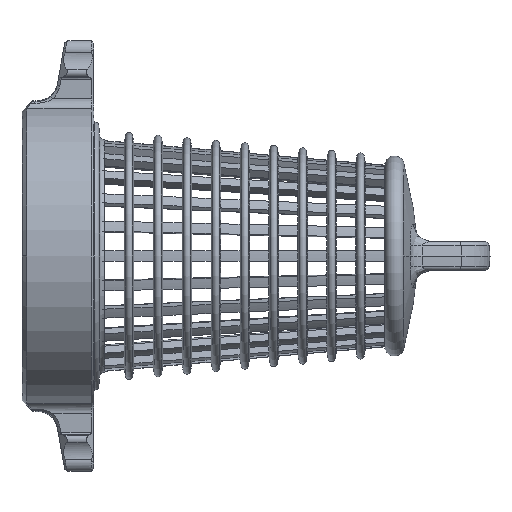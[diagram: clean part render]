
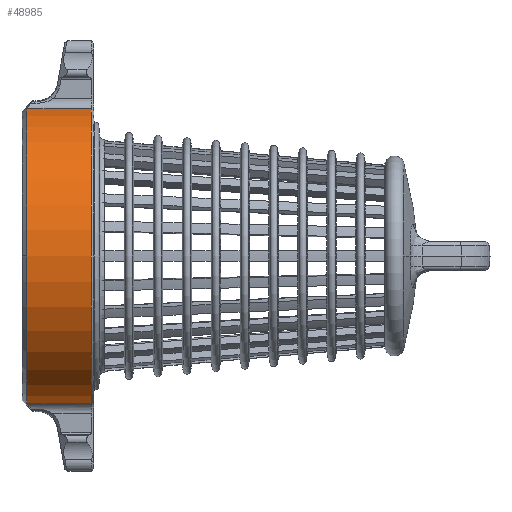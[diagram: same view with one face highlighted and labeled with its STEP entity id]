
A CAD part, front view. The second image highlights one B-rep face of the part: STEP entity #48985.
In plain terms, the highlighted cylindrical face has radius 98.425 mm (diameter 196.85 mm), a partial arc.
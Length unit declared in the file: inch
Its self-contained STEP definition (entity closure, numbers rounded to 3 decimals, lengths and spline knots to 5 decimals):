
#4801 = ORIENTED_EDGE ( 'NONE', *, *, #34245, .F. ) ;
#6235 = CARTESIAN_POINT ( 'NONE',  ( -1.098, 0., 0. ) ) ;
#7372 = ORIENTED_EDGE ( 'NONE', *, *, #14379, .T. ) ;
#8384 = EDGE_CURVE ( 'NONE', #8896, #16818, #25619, .T. ) ;
#8896 = VERTEX_POINT ( 'NONE', #45655 ) ;
#9627 = CARTESIAN_POINT ( 'NONE',  ( -1.223, -0.68878, 3.81329 ) ) ;
#9958 = DIRECTION ( 'NONE',  ( 1., 0., 0. ) ) ;
#9975 = DIRECTION ( 'NONE',  ( 1., 0., 0. ) ) ;
#11533 = CARTESIAN_POINT ( 'NONE',  ( -1.098, -3.875, 0. ) ) ;
#12869 = DIRECTION ( 'NONE',  ( 1., 0., 0. ) ) ;
#13179 = CARTESIAN_POINT ( 'NONE',  ( 0.5775, -0.68878, 3.81329 ) ) ;
#14379 = EDGE_CURVE ( 'NONE', #16567, #8896, #33009, .T. ) ;
#16567 = VERTEX_POINT ( 'NONE', #48987 ) ;
#16818 = VERTEX_POINT ( 'NONE', #13179 ) ;
#18920 = AXIS2_PLACEMENT_3D ( 'NONE', #40291, #28614, #40624 ) ;
#20042 = AXIS2_PLACEMENT_3D ( 'NONE', #6235, #35093, #50800 ) ;
#21796 = CARTESIAN_POINT ( 'NONE',  ( -1.223, -0.68878, -3.81329 ) ) ;
#21798 = LINE ( 'NONE', #9627, #49012 ) ;
#23590 = ORIENTED_EDGE ( 'NONE', *, *, #29823, .F. ) ;
#25619 = CIRCLE ( 'NONE', #18920, 3.875 ) ;
#26895 = ORIENTED_EDGE ( 'NONE', *, *, #8384, .T. ) ;
#28614 = DIRECTION ( 'NONE',  ( -1., 0., 0. ) ) ;
#29823 = EDGE_CURVE ( 'NONE', #16567, #32389, #49565, .T. ) ;
#30363 = AXIS2_PLACEMENT_3D ( 'NONE', #46512, #42455, #33824 ) ;
#30513 = FACE_OUTER_BOUND ( 'NONE', #51002, .T. ) ;
#32389 = VERTEX_POINT ( 'NONE', #11533 ) ;
#33009 = LINE ( 'NONE', #21796, #40572 ) ;
#33824 = DIRECTION ( 'NONE',  ( 0., 1., 0. ) ) ;
#34165 = CIRCLE ( 'NONE', #20042, 3.875 ) ;
#34245 = EDGE_CURVE ( 'NONE', #49135, #16818, #21798, .T. ) ;
#34930 = CYLINDRICAL_SURFACE ( 'NONE', #42341, 3.875 ) ;
#35093 = DIRECTION ( 'NONE',  ( -1., 0., 0. ) ) ;
#40291 = CARTESIAN_POINT ( 'NONE',  ( 0.5775, 0., 0. ) ) ;
#40572 = VECTOR ( 'NONE', #9958, 39.37008 ) ;
#40624 = DIRECTION ( 'NONE',  ( 0., 0., -1. ) ) ;
#41347 = DIRECTION ( 'NONE',  ( 0., 0., -1. ) ) ;
#42341 = AXIS2_PLACEMENT_3D ( 'NONE', #45410, #12869, #41347 ) ;
#42455 = DIRECTION ( 'NONE',  ( -1., 0., 0. ) ) ;
#42574 = CARTESIAN_POINT ( 'NONE',  ( -1.098, -0.68878, 3.81329 ) ) ;
#45410 = CARTESIAN_POINT ( 'NONE',  ( -1.223, 0., 0. ) ) ;
#45655 = CARTESIAN_POINT ( 'NONE',  ( 0.5775, -0.68878, -3.81329 ) ) ;
#46512 = CARTESIAN_POINT ( 'NONE',  ( -1.098, 0., 0. ) ) ;
#48884 = ORIENTED_EDGE ( 'NONE', *, *, #51638, .F. ) ;
#48985 = ADVANCED_FACE ( 'NONE', ( #30513 ), #34930, .T. ) ;
#48987 = CARTESIAN_POINT ( 'NONE',  ( -1.098, -0.68878, -3.81329 ) ) ;
#49012 = VECTOR ( 'NONE', #9975, 39.37008 ) ;
#49135 = VERTEX_POINT ( 'NONE', #42574 ) ;
#49565 = CIRCLE ( 'NONE', #30363, 3.875 ) ;
#50800 = DIRECTION ( 'NONE',  ( 0., 1., 0. ) ) ;
#51002 = EDGE_LOOP ( 'NONE', ( #7372, #26895, #4801, #48884, #23590 ) ) ;
#51638 = EDGE_CURVE ( 'NONE', #32389, #49135, #34165, .T. ) ;
